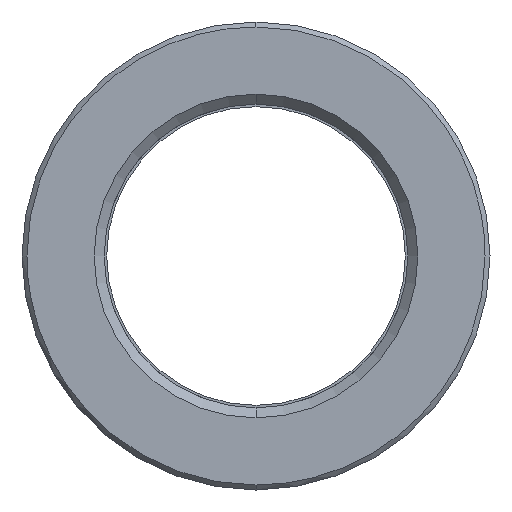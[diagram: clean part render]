
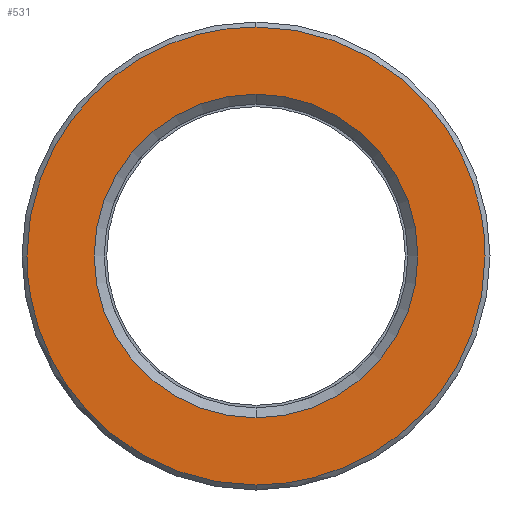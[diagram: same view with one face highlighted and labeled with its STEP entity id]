
A CAD part, left-side view. The second image highlights one B-rep face of the part: STEP entity #531.
In plain terms, the highlighted planar face has unit normal (-1, 0, 0).
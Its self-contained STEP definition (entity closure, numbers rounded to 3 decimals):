
#311=CARTESIAN_POINT('Axis2P3D Location',(0.,0.,0.)) ;
#315=CARTESIAN_POINT('Vertex',(0.,16.25,0.)) ;
#317=CARTESIAN_POINT('Vertex',(0.,0.,16.25)) ;
#320=CARTESIAN_POINT('Axis2P3D Location',(0.,0.,0.)) ;
#324=CARTESIAN_POINT('Vertex',(0.,0.,-16.25)) ;
#351=CARTESIAN_POINT('Axis2P3D Location',(0.,0.,0.)) ;
#355=CARTESIAN_POINT('Vertex',(0.,-16.25,0.)) ;
#358=CARTESIAN_POINT('Axis2P3D Location',(0.,0.,0.)) ;
#438=CARTESIAN_POINT('Axis2P3D Location',(0.,23.,0.)) ;
#444=CARTESIAN_POINT('Control Point',(0.,0.,-23.)) ;
#445=CARTESIAN_POINT('Control Point',(0.,1.232,-23.)) ;
#446=CARTESIAN_POINT('Control Point',(0.,2.465,-22.917)) ;
#447=CARTESIAN_POINT('Control Point',(0.,3.69,-22.752)) ;
#448=CARTESIAN_POINT('Control Point',(0.,6.977,-22.083)) ;
#449=CARTESIAN_POINT('Control Point',(0.,10.102,-20.826)) ;
#450=CARTESIAN_POINT('Control Point',(0.,11.977,-19.807)) ;
#451=CARTESIAN_POINT('Control Point',(0.,15.458,-17.357)) ;
#452=CARTESIAN_POINT('Control Point',(0.,18.293,-14.182)) ;
#453=CARTESIAN_POINT('Control Point',(0.,19.521,-12.437)) ;
#454=CARTESIAN_POINT('Control Point',(0.,21.386,-9.007)) ;
#455=CARTESIAN_POINT('Control Point',(0.,22.493,-5.271)) ;
#456=CARTESIAN_POINT('Control Point',(0.,22.831,-3.528)) ;
#457=CARTESIAN_POINT('Control Point',(0.,23.,-1.764)) ;
#458=CARTESIAN_POINT('Control Point',(0.,23.,0.)) ;
#459=CARTESIAN_POINT('Vertex',(0.,0.,-23.)) ;
#461=CARTESIAN_POINT('Vertex',(0.,23.,0.)) ;
#465=CARTESIAN_POINT('Control Point',(0.,-23.,0.)) ;
#466=CARTESIAN_POINT('Control Point',(0.,-23.,-2.115)) ;
#467=CARTESIAN_POINT('Control Point',(0.,-22.757,-4.229)) ;
#468=CARTESIAN_POINT('Control Point',(0.,-22.271,-6.306)) ;
#469=CARTESIAN_POINT('Control Point',(0.,-20.83,-10.312)) ;
#470=CARTESIAN_POINT('Control Point',(0.,-18.518,-13.886)) ;
#471=CARTESIAN_POINT('Control Point',(0.,-17.161,-15.532)) ;
#472=CARTESIAN_POINT('Control Point',(0.,-14.093,-18.483)) ;
#473=CARTESIAN_POINT('Control Point',(0.,-10.435,-20.661)) ;
#474=CARTESIAN_POINT('Control Point',(0.,-8.489,-21.534)) ;
#475=CARTESIAN_POINT('Control Point',(0.,-5.613,-22.443)) ;
#476=CARTESIAN_POINT('Control Point',(0.,-2.644,-22.873)) ;
#477=CARTESIAN_POINT('Control Point',(0.,-1.764,-22.958)) ;
#478=CARTESIAN_POINT('Control Point',(0.,-0.882,-23.)) ;
#479=CARTESIAN_POINT('Control Point',(0.,0.,-23.)) ;
#480=CARTESIAN_POINT('Vertex',(0.,-23.,0.)) ;
#484=CARTESIAN_POINT('Control Point',(0.,0.,23.)) ;
#485=CARTESIAN_POINT('Control Point',(0.,-1.232,23.)) ;
#486=CARTESIAN_POINT('Control Point',(0.,-2.465,22.917)) ;
#487=CARTESIAN_POINT('Control Point',(0.,-3.69,22.752)) ;
#488=CARTESIAN_POINT('Control Point',(0.,-6.977,22.083)) ;
#489=CARTESIAN_POINT('Control Point',(0.,-10.102,20.826)) ;
#490=CARTESIAN_POINT('Control Point',(0.,-11.977,19.807)) ;
#491=CARTESIAN_POINT('Control Point',(0.,-15.458,17.357)) ;
#492=CARTESIAN_POINT('Control Point',(0.,-18.293,14.182)) ;
#493=CARTESIAN_POINT('Control Point',(0.,-19.521,12.437)) ;
#494=CARTESIAN_POINT('Control Point',(0.,-21.386,9.007)) ;
#495=CARTESIAN_POINT('Control Point',(0.,-22.493,5.271)) ;
#496=CARTESIAN_POINT('Control Point',(0.,-22.831,3.528)) ;
#497=CARTESIAN_POINT('Control Point',(0.,-23.,1.764)) ;
#498=CARTESIAN_POINT('Control Point',(0.,-23.,0.)) ;
#499=CARTESIAN_POINT('Vertex',(0.,0.,23.)) ;
#503=CARTESIAN_POINT('Control Point',(0.,23.,0.)) ;
#504=CARTESIAN_POINT('Control Point',(0.,23.,2.115)) ;
#505=CARTESIAN_POINT('Control Point',(0.,22.757,4.229)) ;
#506=CARTESIAN_POINT('Control Point',(0.,22.271,6.306)) ;
#507=CARTESIAN_POINT('Control Point',(0.,20.83,10.312)) ;
#508=CARTESIAN_POINT('Control Point',(0.,18.518,13.886)) ;
#509=CARTESIAN_POINT('Control Point',(0.,17.161,15.532)) ;
#510=CARTESIAN_POINT('Control Point',(0.,14.093,18.483)) ;
#511=CARTESIAN_POINT('Control Point',(0.,10.435,20.661)) ;
#512=CARTESIAN_POINT('Control Point',(0.,8.489,21.534)) ;
#513=CARTESIAN_POINT('Control Point',(0.,5.613,22.443)) ;
#514=CARTESIAN_POINT('Control Point',(0.,2.644,22.873)) ;
#515=CARTESIAN_POINT('Control Point',(0.,1.764,22.958)) ;
#516=CARTESIAN_POINT('Control Point',(0.,0.882,23.)) ;
#517=CARTESIAN_POINT('Control Point',(0.,0.,23.)) ;
#312=DIRECTION('Axis2P3D Direction',(-1.,0.,0.)) ;
#321=DIRECTION('Axis2P3D Direction',(-1.,0.,0.)) ;
#352=DIRECTION('Axis2P3D Direction',(-1.,0.,0.)) ;
#359=DIRECTION('Axis2P3D Direction',(-1.,0.,0.)) ;
#439=DIRECTION('Axis2P3D Direction',(-1.,0.,0.)) ;
#440=DIRECTION('Axis2P3D XDirection',(0.,0.,1.)) ;
#313=AXIS2_PLACEMENT_3D('Circle Axis2P3D',#311,#312,$) ;
#322=AXIS2_PLACEMENT_3D('Circle Axis2P3D',#320,#321,$) ;
#353=AXIS2_PLACEMENT_3D('Circle Axis2P3D',#351,#352,$) ;
#360=AXIS2_PLACEMENT_3D('Circle Axis2P3D',#358,#359,$) ;
#441=AXIS2_PLACEMENT_3D('Plane Axis2P3D',#438,#439,#440) ;
#520=ORIENTED_EDGE('',*,*,#463,.F.) ;
#521=ORIENTED_EDGE('',*,*,#482,.F.) ;
#522=ORIENTED_EDGE('',*,*,#501,.F.) ;
#523=ORIENTED_EDGE('',*,*,#518,.F.) ;
#526=ORIENTED_EDGE('',*,*,#319,.T.) ;
#527=ORIENTED_EDGE('',*,*,#362,.T.) ;
#528=ORIENTED_EDGE('',*,*,#357,.T.) ;
#529=ORIENTED_EDGE('',*,*,#326,.T.) ;
#530=FACE_BOUND('',#525,.T.) ;
#531=ADVANCED_FACE('553-30X156',(#524,#530),#442,.T.) ;
#443=B_SPLINE_CURVE_WITH_KNOTS('',5,(#444,#445,#446,#447,#448,#449,#450,#451,#452,#453,#454,#455,#456,#457,#458),.UNSPECIFIED.,.F.,.U.,(6,3,3,3,6),(51.093,59.807,74.759,89.711,102.186),.UNSPECIFIED.) ;
#464=B_SPLINE_CURVE_WITH_KNOTS('',5,(#465,#466,#467,#468,#469,#470,#471,#472,#473,#474,#475,#476,#477,#478,#479),.UNSPECIFIED.,.F.,.U.,(6,3,3,3,6),(0.,14.952,29.904,44.855,51.093),.UNSPECIFIED.) ;
#483=B_SPLINE_CURVE_WITH_KNOTS('',5,(#484,#485,#486,#487,#488,#489,#490,#491,#492,#493,#494,#495,#496,#497,#498),.UNSPECIFIED.,.F.,.U.,(6,3,3,3,6),(51.093,59.807,74.759,89.711,102.186),.UNSPECIFIED.) ;
#502=B_SPLINE_CURVE_WITH_KNOTS('',5,(#503,#504,#505,#506,#507,#508,#509,#510,#511,#512,#513,#514,#515,#516,#517),.UNSPECIFIED.,.F.,.U.,(6,3,3,3,6),(0.,14.952,29.904,44.855,51.093),.UNSPECIFIED.) ;
#314=CIRCLE('generated circle',#313,16.25) ;
#323=CIRCLE('generated circle',#322,16.25) ;
#354=CIRCLE('generated circle',#353,16.25) ;
#361=CIRCLE('generated circle',#360,16.25) ;
#319=EDGE_CURVE('',#316,#318,#314,.F.) ;
#326=EDGE_CURVE('',#325,#316,#323,.F.) ;
#357=EDGE_CURVE('',#356,#325,#354,.F.) ;
#362=EDGE_CURVE('',#318,#356,#361,.F.) ;
#463=EDGE_CURVE('',#460,#462,#443,.T.) ;
#482=EDGE_CURVE('',#481,#460,#464,.T.) ;
#501=EDGE_CURVE('',#500,#481,#483,.T.) ;
#518=EDGE_CURVE('',#462,#500,#502,.T.) ;
#519=EDGE_LOOP('',(#520,#521,#522,#523)) ;
#525=EDGE_LOOP('',(#526,#527,#528,#529)) ;
#524=FACE_OUTER_BOUND('',#519,.T.) ;
#442=PLANE('Plane',#441) ;
#316=VERTEX_POINT('',#315) ;
#318=VERTEX_POINT('',#317) ;
#325=VERTEX_POINT('',#324) ;
#356=VERTEX_POINT('',#355) ;
#460=VERTEX_POINT('',#459) ;
#462=VERTEX_POINT('',#461) ;
#481=VERTEX_POINT('',#480) ;
#500=VERTEX_POINT('',#499) ;
